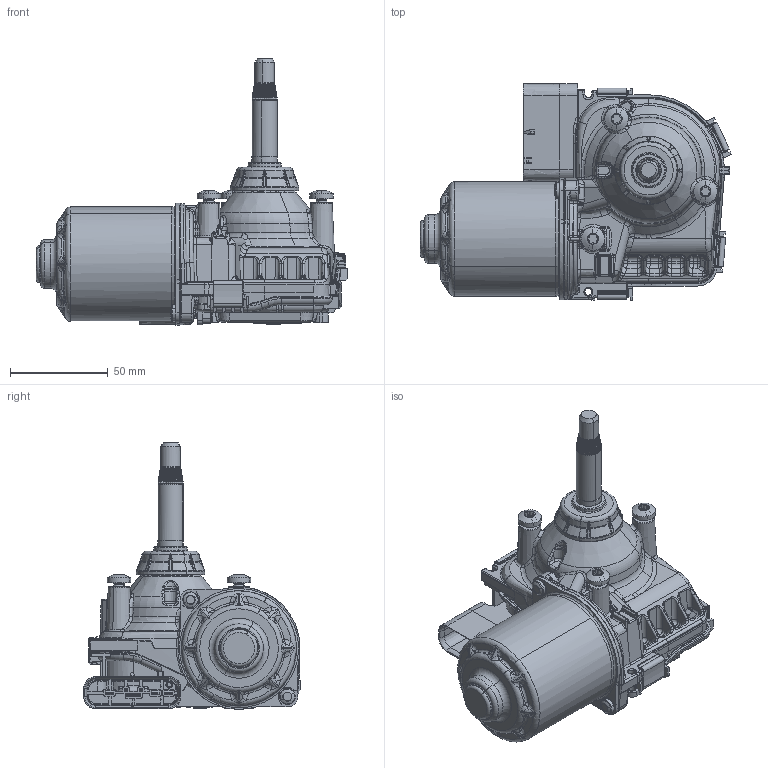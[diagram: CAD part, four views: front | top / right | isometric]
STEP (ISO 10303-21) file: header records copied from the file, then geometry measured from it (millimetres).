
FILE_DESCRIPTION(('CATIA V5 STEP Exchange'),'2;1');
FILE_NAME('C:\Users\PEN2BG\Desktop\WDD2_OHW_left_with_Screws.stp','2017-11-17T09:58:23+00:00',('none'),('none'),'CATIA Version 5 Release 19 SP 9 (IN-10)','CATIA V5 STEP AP214','none');
FILE_SCHEMA(('AUTOMOTIVE_DESIGN { 1 0 10303 214 1 1 1 1 }'));
Length unit declared in the file: millimetre
Products named in the file (3): WDD2_OHW_left_with_Screws; WDD2_OHW_left; Screw
Assembly tree (4 placements, depth 2):
  WDD2_OHW_left_with_Screws
    WDD2_OHW_left
    Screw  x3
Bounding box: 159.14 x 110.69 x 136.21 mm (x, y, z)
Volume: 491368 mm3; surface area: 72806 mm2
Topology: 4 solids, 4 shells, 3543 faces, 9216 edges, 5531 vertices
Faces by surface type: bspline 1140, plane 1000, cylinder 780, torus 338, cone 177, sphere 75, revolution 21, extrusion 12
Entity records: 176565 total; most frequent: CARTESIAN_POINT 105644, ORIENTED_EDGE 17726, DIRECTION 9267, EDGE_CURVE 8863, VERTEX_POINT 5409, AXIS2_PLACEMENT_3D 3997, B_SPLINE_CURVE_WITH_KNOTS 3789, EDGE_LOOP 3532
